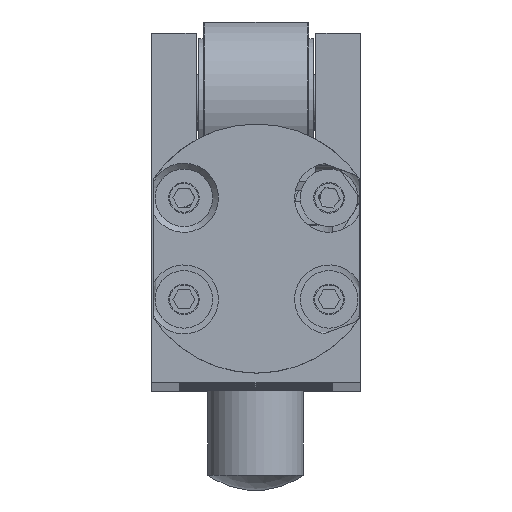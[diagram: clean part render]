
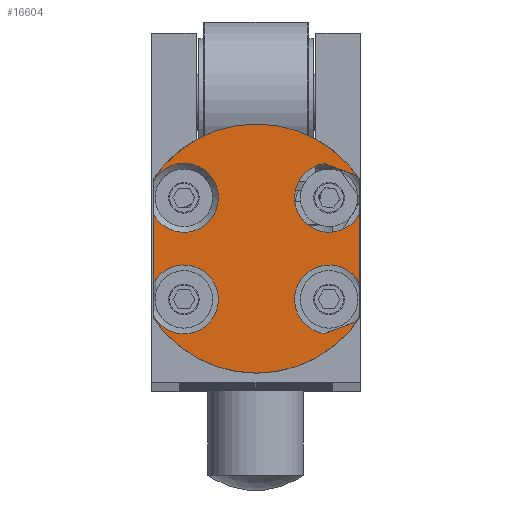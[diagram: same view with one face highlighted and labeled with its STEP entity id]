
A CAD part, top view. The second image highlights one B-rep face of the part: STEP entity #16604.
In plain terms, the highlighted planar face has unit normal (0, 0, 1).
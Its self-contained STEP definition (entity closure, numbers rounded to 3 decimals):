
#739=LINE('',#30687,#1399);
#740=LINE('',#30690,#1400);
#741=LINE('',#30694,#1401);
#742=LINE('',#30698,#1402);
#743=LINE('',#30702,#1403);
#744=LINE('',#30706,#1404);
#745=LINE('',#30710,#1405);
#746=LINE('',#30713,#1406);
#1399=VECTOR('',#23259,10.);
#1400=VECTOR('',#23262,10.);
#1401=VECTOR('',#23265,10.);
#1402=VECTOR('',#23268,10.);
#1403=VECTOR('',#23271,10.);
#1404=VECTOR('',#23274,10.);
#1405=VECTOR('',#23277,10.);
#1406=VECTOR('',#23280,10.);
#2988=FACE_OUTER_BOUND('',#3996,.T.);
#3996=EDGE_LOOP('',(#13479,#13480,#13481,#13482,#13483,#13484,#13485,#13486,
#13487,#13488,#13489,#13490,#13491,#13492,#13493,#13494));
#5475=CIRCLE('',#18643,3.6);
#5478=CIRCLE('',#18646,3.6);
#5479=CIRCLE('',#18650,3.6);
#5480=CIRCLE('',#18651,3.6);
#5481=CIRCLE('',#18652,13.);
#5482=CIRCLE('',#18653,3.6);
#5483=CIRCLE('',#18654,3.6);
#5484=CIRCLE('',#18655,13.);
#7185=VERTEX_POINT('',#30663);
#7186=VERTEX_POINT('',#30664);
#7187=VERTEX_POINT('',#30668);
#7191=VERTEX_POINT('',#30679);
#7192=VERTEX_POINT('',#30689);
#7193=VERTEX_POINT('',#30691);
#7194=VERTEX_POINT('',#30693);
#7195=VERTEX_POINT('',#30695);
#7196=VERTEX_POINT('',#30697);
#7197=VERTEX_POINT('',#30699);
#7198=VERTEX_POINT('',#30701);
#7199=VERTEX_POINT('',#30703);
#7200=VERTEX_POINT('',#30705);
#7201=VERTEX_POINT('',#30707);
#7202=VERTEX_POINT('',#30709);
#7203=VERTEX_POINT('',#30711);
#9426=EDGE_CURVE('',#7187,#7185,#5475,.T.);
#9432=EDGE_CURVE('',#7186,#7191,#5478,.T.);
#9434=EDGE_CURVE('',#7191,#7187,#739,.T.);
#9435=EDGE_CURVE('',#7185,#7192,#740,.T.);
#9436=EDGE_CURVE('',#7192,#7193,#5479,.T.);
#9437=EDGE_CURVE('',#7193,#7194,#741,.T.);
#9438=EDGE_CURVE('',#7194,#7195,#5480,.T.);
#9439=EDGE_CURVE('',#7195,#7196,#742,.T.);
#9440=EDGE_CURVE('',#7197,#7196,#5481,.T.);
#9441=EDGE_CURVE('',#7197,#7198,#743,.T.);
#9442=EDGE_CURVE('',#7198,#7199,#5482,.T.);
#9443=EDGE_CURVE('',#7199,#7200,#744,.T.);
#9444=EDGE_CURVE('',#7200,#7201,#5483,.T.);
#9445=EDGE_CURVE('',#7201,#7202,#745,.T.);
#9446=EDGE_CURVE('',#7203,#7202,#5484,.T.);
#9447=EDGE_CURVE('',#7203,#7186,#746,.T.);
#13479=ORIENTED_EDGE('',*,*,#9432,.T.);
#13480=ORIENTED_EDGE('',*,*,#9434,.T.);
#13481=ORIENTED_EDGE('',*,*,#9426,.T.);
#13482=ORIENTED_EDGE('',*,*,#9435,.T.);
#13483=ORIENTED_EDGE('',*,*,#9436,.T.);
#13484=ORIENTED_EDGE('',*,*,#9437,.T.);
#13485=ORIENTED_EDGE('',*,*,#9438,.T.);
#13486=ORIENTED_EDGE('',*,*,#9439,.T.);
#13487=ORIENTED_EDGE('',*,*,#9440,.F.);
#13488=ORIENTED_EDGE('',*,*,#9441,.T.);
#13489=ORIENTED_EDGE('',*,*,#9442,.T.);
#13490=ORIENTED_EDGE('',*,*,#9443,.T.);
#13491=ORIENTED_EDGE('',*,*,#9444,.T.);
#13492=ORIENTED_EDGE('',*,*,#9445,.T.);
#13493=ORIENTED_EDGE('',*,*,#9446,.F.);
#13494=ORIENTED_EDGE('',*,*,#9447,.T.);
#15128=PLANE('',#18649);
#16604=ADVANCED_FACE('',(#2988),#15128,.T.);
#18643=AXIS2_PLACEMENT_3D('',#30669,#23245,#23246);
#18646=AXIS2_PLACEMENT_3D('',#30683,#23252,#23253);
#18649=AXIS2_PLACEMENT_3D('',#30688,#23260,#23261);
#18650=AXIS2_PLACEMENT_3D('',#30692,#23263,#23264);
#18651=AXIS2_PLACEMENT_3D('',#30696,#23266,#23267);
#18652=AXIS2_PLACEMENT_3D('',#30700,#23269,#23270);
#18653=AXIS2_PLACEMENT_3D('',#30704,#23272,#23273);
#18654=AXIS2_PLACEMENT_3D('',#30708,#23275,#23276);
#18655=AXIS2_PLACEMENT_3D('',#30712,#23278,#23279);
#23245=DIRECTION('center_axis',(0.,0.,
-1.));
#23246=DIRECTION('ref_axis',(-0.342,0.94,0.));
#23252=DIRECTION('center_axis',(0.,0.,
-1.));
#23253=DIRECTION('ref_axis',(-0.342,0.94,0.));
#23259=DIRECTION('',(-0.94,-0.342,0.));
#23260=DIRECTION('center_axis',(0.,0.,
1.));
#23261=DIRECTION('ref_axis',(1.,0.,0.));
#23262=DIRECTION('',(0.,1.,0.));
#23263=DIRECTION('center_axis',(0.,0.,
-1.));
#23264=DIRECTION('ref_axis',(-0.342,-0.94,0.));
#23265=DIRECTION('',(0.94,-0.342,0.));
#23266=DIRECTION('center_axis',(0.,0.,
-1.));
#23267=DIRECTION('ref_axis',(-0.342,-0.94,0.));
#23268=DIRECTION('',(0.,1.,0.));
#23269=DIRECTION('center_axis',(0.,0.,
-1.));
#23270=DIRECTION('ref_axis',(0.,1.,0.));
#23271=DIRECTION('',(0.,-1.,0.));
#23272=DIRECTION('center_axis',(0.,0.,
-1.));
#23273=DIRECTION('ref_axis',(1.,0.,0.));
#23274=DIRECTION('',(0.,-1.,0.));
#23275=DIRECTION('center_axis',(0.,0.,
-1.));
#23276=DIRECTION('ref_axis',(1.,0.,0.));
#23277=DIRECTION('',(0.,-1.,0.));
#23278=DIRECTION('center_axis',(0.,0.,
-1.));
#23279=DIRECTION('ref_axis',(0.,1.,0.));
#23280=DIRECTION('',(0.,1.,0.));
#30663=CARTESIAN_POINT('',(10.8,-7.855,266.));
#30664=CARTESIAN_POINT('',(10.8,-11.256,266.));
#30668=CARTESIAN_POINT('',(7.114,-13.119,266.));
#30669=CARTESIAN_POINT('Origin',(7.627,-9.556,266.));
#30679=CARTESIAN_POINT('',(10.311,-11.955,266.));
#30683=CARTESIAN_POINT('Origin',(7.627,-9.556,266.));
#30687=CARTESIAN_POINT('',(8.206,-12.721,266.));
#30688=CARTESIAN_POINT('Origin',(0.05,2.25,266.));
#30689=CARTESIAN_POINT('',(10.8,-0.645,266.));
#30690=CARTESIAN_POINT('',(10.8,-4.655,266.));
#30691=CARTESIAN_POINT('',(7.114,4.619,266.));
#30692=CARTESIAN_POINT('Origin',(7.627,1.056,266.));
#30693=CARTESIAN_POINT('',(10.311,3.455,266.));
#30694=CARTESIAN_POINT('',(6.117,4.982,266.));
#30695=CARTESIAN_POINT('',(10.8,2.756,266.));
#30696=CARTESIAN_POINT('Origin',(7.627,1.056,266.));
#30697=CARTESIAN_POINT('',(10.8,3.06,266.));
#30698=CARTESIAN_POINT('',(10.8,-4.655,266.));
#30699=CARTESIAN_POINT('',(-10.7,3.06,266.));
#30700=CARTESIAN_POINT('Origin',(0.05,-4.25,266.));
#30701=CARTESIAN_POINT('',(-10.7,2.756,266.));
#30702=CARTESIAN_POINT('',(-10.7,2.655,266.));
#30703=CARTESIAN_POINT('',(-10.7,-0.645,266.));
#30704=CARTESIAN_POINT('Origin',(-7.527,1.056,266.));
#30705=CARTESIAN_POINT('',(-10.7,-7.855,266.));
#30706=CARTESIAN_POINT('',(-10.7,2.655,266.));
#30707=CARTESIAN_POINT('',(-10.7,-11.256,266.));
#30708=CARTESIAN_POINT('Origin',(-7.527,-9.556,266.));
#30709=CARTESIAN_POINT('',(-10.7,-11.56,266.));
#30710=CARTESIAN_POINT('',(-10.7,2.655,266.));
#30711=CARTESIAN_POINT('',(10.8,-11.56,266.));
#30712=CARTESIAN_POINT('Origin',(0.05,-4.25,266.));
#30713=CARTESIAN_POINT('',(10.8,-4.655,266.));
